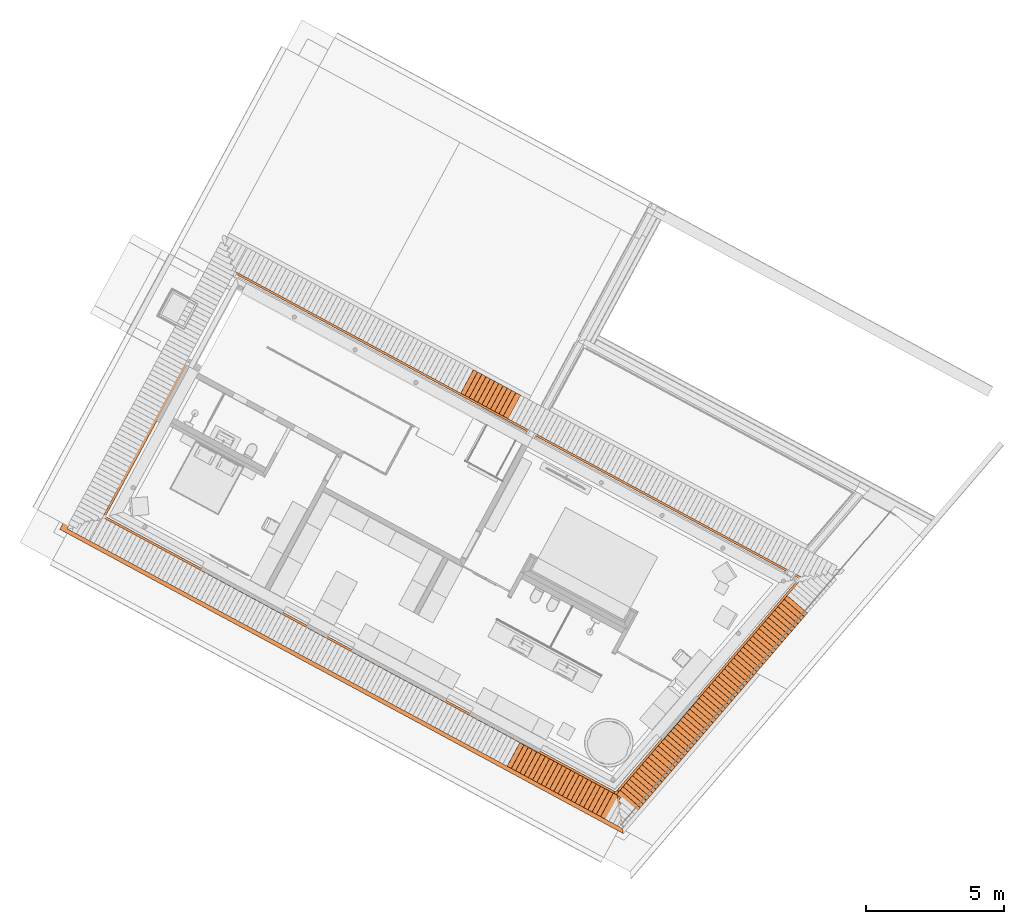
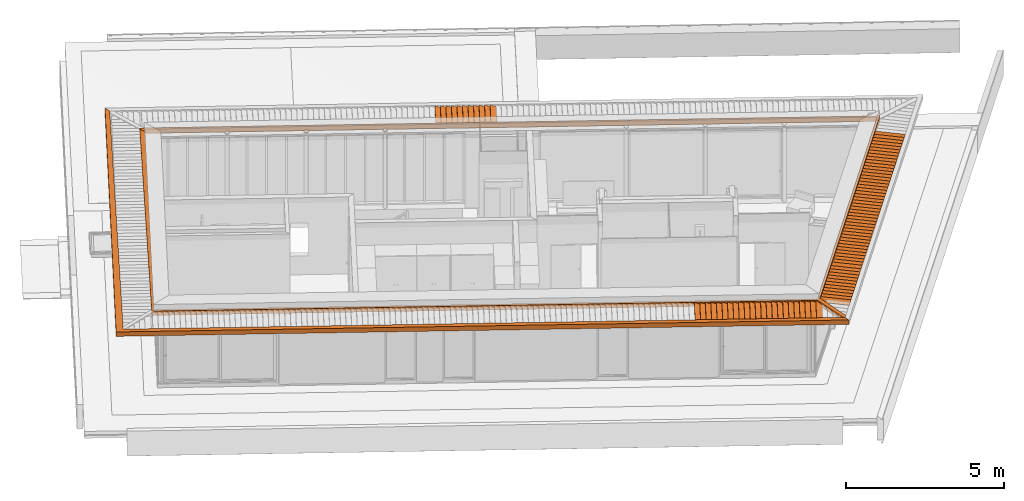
# One storey, part 38 of 41: 92 proxies.
"""IFC2X3 building model written with IfcOpenShell, lengths in metres."""

from ifc_helpers import new_model, entity, si_unit, converted_unit, derived_unit, money_unit, direction, frame, origin_with_axes, place, context, subcontext, project, spatial, polyline, outline, extrude, faceted_brep, source, transform, mapped, material, material_list, type_object, element, save


model = new_model("IFC2X3")

# Units and contexts
model_context = context("Model", 3, precision=1e-05, world=origin_with_axes(), true_north=direction((0.0, 1.0)))
body_context = subcontext(model_context, "Body", "Model", "MODEL_VIEW")
ifc_project = project(units=[si_unit("LENGTHUNIT", "METRE"), si_unit("AREAUNIT", "SQUARE_METRE"), si_unit("VOLUMEUNIT", "CUBIC_METRE"), converted_unit("PLANEANGLEUNIT", "DEGREE", entity("IfcPlaneAngleMeasure", 0.0174532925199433), si_unit("PLANEANGLEUNIT", "RADIAN"), dimensions=[0, 0, 0, 0, 0, 0, 0]), money_unit("EUR"), converted_unit("TIMEUNIT", "Year", entity("IfcTimeMeasure", 31556926.0), si_unit("TIMEUNIT", "SECOND"), dimensions=[0, 0, 1, 0, 0, 0, 0]), si_unit("MASSUNIT", "GRAM", prefix="KILO"), si_unit("THERMODYNAMICTEMPERATUREUNIT", "DEGREE_CELSIUS"), si_unit("LUMINOUSINTENSITYUNIT", "LUMEN"), si_unit("ENERGYUNIT", "JOULE", prefix="MEGA"), derived_unit("THERMALCONDUCTANCEUNIT", [(si_unit("POWERUNIT", "WATT"), 1), (si_unit("LENGTHUNIT", "METRE"), -1), (si_unit("THERMODYNAMICTEMPERATUREUNIT", "KELVIN"), -1)]), derived_unit("SPECIFICHEATCAPACITYUNIT", [(si_unit("ENERGYUNIT", "JOULE"), 1), (si_unit("MASSUNIT", "GRAM", prefix="KILO"), -1), (si_unit("THERMODYNAMICTEMPERATUREUNIT", "KELVIN"), -1)]), derived_unit("MASSDENSITYUNIT", [(si_unit("MASSUNIT", "GRAM", prefix="KILO"), 1), (si_unit("VOLUMEUNIT", "CUBIC_METRE"), -1)])], contexts=[model_context])

# Site, building, storey
site_placement = place(None, frame((-3.949935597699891, 1.740105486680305, 0.0), z_axis=(0.0, 0.0, 1.0), x_axis=(0.8799804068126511, -0.475009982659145, 0.0)))
site = spatial("IfcSite", under=ifc_project, at=site_placement, Name="Gelände", CompositionType="ELEMENT")
building_placement = place(site_placement, origin_with_axes())
building = spatial("IfcBuilding", under=site, at=building_placement, Name="Gebäude", CompositionType="ELEMENT")
storey_placement = place(building_placement, frame((0.0, 0.0, 4.55), z_axis=(0.0, 0.0, 1.0), x_axis=(1.0, 0.0, 0.0)))
storey = spatial("IfcBuildingStorey", under=building, at=storey_placement, Name="Staffelgeschoss", CompositionType="ELEMENT", Elevation=4.55)

# Proxies
ifc_material_1 = material(Name="ALLGEMEIN - BAUTEIL")
building_element_proxy_type_1 = type_object("IfcBuildingElementProxyType", Name="ALLGEMEIN - BAUTEIL", PredefinedType="USERDEFINED")
shared_shape = source(origin_with_axes(), body_context, "Body", "Brep", [
    faceted_brep([(0.2148913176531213, -0.9669323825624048, 0.0), (0.0, -0.9669000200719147, 0.0), (0.0, 0.0, 0.0), (0.2150369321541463, -3.238441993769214e-05, 0.0), (0.2148913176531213, -0.9669323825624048, 0.009999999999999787), (0.0, -0.9669000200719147, 0.009999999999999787), (0.0, 0.0, 0.009999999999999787), (0.2150369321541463, -3.238441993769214e-05, 0.009999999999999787)], [[[0, 1, 2, 3]], [[1, 0, 4, 5]], [[5, 6, 2, 1]], [[6, 7, 3, 2]], [[4, 0, 3, 7]], [[6, 5, 4, 7]]]),
])
for number, where, z_axis, x_axis, name in (
    (1, (29.00400020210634, 9.499252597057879, 2.903466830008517), (-0.07623058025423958, -0.3492978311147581, 0.933905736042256), (-0.1991281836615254, -0.9124296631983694, -0.3575193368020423), "Morph-037"),
    (2, (29.04130504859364, 9.670187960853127, 2.903466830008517), (-0.07623058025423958, -0.3492978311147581, 0.933905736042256), (-0.1991281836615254, -0.9124296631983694, -0.3575193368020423), "Morph-037"),
    (3, (29.07860989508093, 9.841123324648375, 2.903466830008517), (-0.07623058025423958, -0.3492978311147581, 0.933905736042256), (-0.1991281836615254, -0.9124296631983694, -0.3575193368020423), "Morph-037"),
    (4, (28.92939050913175, 9.157381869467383, 2.903466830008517), (-0.07623058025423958, -0.3492978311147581, 0.933905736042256), (-0.1991281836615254, -0.9124296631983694, -0.3575193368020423), "Morph-037"),
    (5, (27.17198807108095, 1.104900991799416, 2.903466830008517), (-0.07623058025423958, -0.3492978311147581, 0.933905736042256), (-0.1991281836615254, -0.9124296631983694, -0.3575193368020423), "Morph-037"),
    (6, (27.20784988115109, 1.269224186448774, 2.903466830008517), (-0.07623058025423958, -0.3492978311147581, 0.933905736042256), (-0.1991281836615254, -0.9124296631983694, -0.3575193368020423), "Morph-037"),
    (7, (27.54359349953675, 2.807642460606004, 2.903466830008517), (-0.07623058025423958, -0.3492978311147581, 0.933905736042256), (-0.1991281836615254, -0.9124296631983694, -0.3575193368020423), "Morph-037"),
    (8, (27.24515472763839, 1.440159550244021, 2.903466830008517), (-0.07623058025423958, -0.3492978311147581, 0.933905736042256), (-0.1991281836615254, -0.9124296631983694, -0.3575193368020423), "Morph-037"),
    (9, (27.28245957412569, 1.61109491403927, 2.903466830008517), (-0.07623058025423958, -0.3492978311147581, 0.933905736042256), (-0.1991281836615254, -0.9124296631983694, -0.3575193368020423), "Morph-037"),
    (10, (27.31976442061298, 1.782030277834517, 2.903466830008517), (-0.07623058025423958, -0.3492978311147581, 0.933905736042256), (-0.1991281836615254, -0.9124296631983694, -0.3575193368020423), "Morph-037"),
    (11, (27.35706926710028, 1.952965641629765, 2.903466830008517), (-0.07623058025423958, -0.3492978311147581, 0.933905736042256), (-0.1991281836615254, -0.9124296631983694, -0.3575193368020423), "Morph-037"),
    (12, (27.43167896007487, 2.29483636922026, 2.903466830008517), (-0.07623058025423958, -0.3492978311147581, 0.933905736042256), (-0.1991281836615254, -0.9124296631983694, -0.3575193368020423), "Morph-037"),
    (13, (27.46898380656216, 2.465771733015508, 2.903466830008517), (-0.07623058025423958, -0.3492978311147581, 0.933905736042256), (-0.1991281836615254, -0.9124296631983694, -0.3575193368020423), "Morph-037"),
    (14, (27.50628865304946, 2.636707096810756, 2.903466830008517), (-0.07623058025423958, -0.3492978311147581, 0.933905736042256), (-0.1991281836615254, -0.9124296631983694, -0.3575193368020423), "Morph-037"),
    (15, (27.58641603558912, 3.00370877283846, 2.903466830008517), (-0.07623058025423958, -0.3492978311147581, 0.933905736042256), (-0.1991281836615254, -0.9124296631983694, -0.3575193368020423), "Morph-037"),
    (16, (27.66102572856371, 3.345579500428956, 2.903466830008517), (-0.07623058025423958, -0.3492978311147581, 0.933905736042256), (-0.1991281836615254, -0.9124296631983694, -0.3575193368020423), "Morph-037"),
    (17, (27.39437411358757, 2.123901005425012, 2.903466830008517), (-0.07623058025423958, -0.3492978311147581, 0.933905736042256), (-0.1991281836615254, -0.9124296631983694, -0.3575193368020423), "Morph-037"),
    (18, (27.62372088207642, 3.174644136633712, 2.903466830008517), (-0.07623058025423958, -0.3492978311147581, 0.933905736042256), (-0.1991281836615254, -0.9124296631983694, -0.3575193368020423), "Morph-037"),
    (19, (27.69833057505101, 3.516514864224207, 2.903466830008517), (-0.07623058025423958, -0.3492978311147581, 0.933905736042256), (-0.1991281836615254, -0.9124296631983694, -0.3575193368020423), "Morph-037"),
    (20, (27.7356354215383, 3.687450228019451, 2.903466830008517), (-0.07623058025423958, -0.3492978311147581, 0.933905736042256), (-0.1991281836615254, -0.9124296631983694, -0.3575193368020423), "Morph-037"),
    (21, (27.7729402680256, 3.858385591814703, 2.903466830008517), (-0.07623058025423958, -0.3492978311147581, 0.933905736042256), (-0.1991281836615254, -0.9124296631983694, -0.3575193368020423), "Morph-037"),
    (22, (27.81024511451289, 4.029320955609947, 2.903466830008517), (-0.07623058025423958, -0.3492978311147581, 0.933905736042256), (-0.1991281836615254, -0.9124296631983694, -0.3575193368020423), "Morph-037"),
    (23, (27.84754996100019, 4.200256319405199, 2.903466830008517), (-0.07623058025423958, -0.3492978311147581, 0.933905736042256), (-0.1991281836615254, -0.9124296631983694, -0.3575193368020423), "Morph-037"),
    (24, (27.88485480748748, 4.371191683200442, 2.903466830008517), (-0.07623058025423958, -0.3492978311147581, 0.933905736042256), (-0.1991281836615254, -0.9124296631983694, -0.3575193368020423), "Morph-037"),
    (25, (27.95946450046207, 4.713062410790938, 2.903466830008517), (-0.07623058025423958, -0.3492978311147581, 0.933905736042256), (-0.1991281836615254, -0.9124296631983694, -0.3575193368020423), "Morph-037"),
    (26, (27.92215965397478, 4.542127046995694, 2.903466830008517), (-0.07623058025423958, -0.3492978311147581, 0.933905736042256), (-0.1991281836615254, -0.9124296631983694, -0.3575193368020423), "Morph-037"),
    (27, (27.99676934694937, 4.88399777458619, 2.903466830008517), (-0.07623058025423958, -0.3492978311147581, 0.933905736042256), (-0.1991281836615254, -0.9124296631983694, -0.3575193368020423), "Morph-037"),
    (28, (28.03407419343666, 5.054933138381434, 2.903466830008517), (-0.07623058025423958, -0.3492978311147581, 0.933905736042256), (-0.1991281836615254, -0.9124296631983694, -0.3575193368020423), "Morph-037"),
    (29, (28.10868388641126, 5.396803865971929, 2.903466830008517), (-0.07623058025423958, -0.3492978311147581, 0.933905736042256), (-0.1991281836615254, -0.9124296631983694, -0.3575193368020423), "Morph-037"),
    (30, (28.14598873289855, 5.567739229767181, 2.903466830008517), (-0.07623058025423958, -0.3492978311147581, 0.933905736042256), (-0.1991281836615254, -0.9124296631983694, -0.3575193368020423), "Morph-037"),
    (31, (28.07137903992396, 5.225868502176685, 2.903466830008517), (-0.07623058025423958, -0.3492978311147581, 0.933905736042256), (-0.1991281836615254, -0.9124296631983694, -0.3575193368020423), "Morph-037"),
    (32, (28.22059842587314, 5.909609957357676, 2.903466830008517), (-0.07623058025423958, -0.3492978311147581, 0.933905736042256), (-0.1991281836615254, -0.9124296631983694, -0.3575193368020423), "Morph-037"),
    (33, (28.25790327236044, 6.080545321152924, 2.903466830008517), (-0.07623058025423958, -0.3492978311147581, 0.933905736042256), (-0.1991281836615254, -0.9124296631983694, -0.3575193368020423), "Morph-037"),
    (34, (28.18329357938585, 5.738674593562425, 2.903466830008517), (-0.07623058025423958, -0.3492978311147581, 0.933905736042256), (-0.1991281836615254, -0.9124296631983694, -0.3575193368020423), "Morph-037"),
    (35, (28.29520811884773, 6.251480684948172, 2.903466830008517), (-0.07623058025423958, -0.3492978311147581, 0.933905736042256), (-0.1991281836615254, -0.9124296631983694, -0.3575193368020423), "Morph-037"),
    (36, (28.33251296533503, 6.422416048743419, 2.903466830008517), (-0.07623058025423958, -0.3492978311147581, 0.933905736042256), (-0.1991281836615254, -0.9124296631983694, -0.3575193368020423), "Morph-037"),
    (37, (28.36981781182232, 6.593351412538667, 2.903466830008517), (-0.07623058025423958, -0.3492978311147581, 0.933905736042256), (-0.1991281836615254, -0.9124296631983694, -0.3575193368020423), "Morph-037"),
    (38, (28.40712265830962, 6.764286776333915, 2.903466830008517), (-0.07623058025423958, -0.3492978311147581, 0.933905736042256), (-0.1991281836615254, -0.9124296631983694, -0.3575193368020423), "Morph-037"),
    (39, (28.48173235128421, 7.10615750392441, 2.903466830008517), (-0.07623058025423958, -0.3492978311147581, 0.933905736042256), (-0.1991281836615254, -0.9124296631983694, -0.3575193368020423), "Morph-037"),
    (40, (28.44442750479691, 6.935222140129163, 2.903466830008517), (-0.07623058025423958, -0.3492978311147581, 0.933905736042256), (-0.1991281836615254, -0.9124296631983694, -0.3575193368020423), "Morph-037"),
    (41, (28.5190371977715, 7.277092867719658, 2.903466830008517), (-0.07623058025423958, -0.3492978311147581, 0.933905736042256), (-0.1991281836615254, -0.9124296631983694, -0.3575193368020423), "Morph-037"),
    (42, (28.59364689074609, 7.618963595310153, 2.903466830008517), (-0.07623058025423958, -0.3492978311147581, 0.933905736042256), (-0.1991281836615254, -0.9124296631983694, -0.3575193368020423), "Morph-037"),
    (43, (28.66825658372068, 7.96083432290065, 2.903466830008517), (-0.07623058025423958, -0.3492978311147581, 0.933905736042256), (-0.1991281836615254, -0.9124296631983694, -0.3575193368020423), "Morph-037"),
    (44, (28.63095173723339, 7.789898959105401, 2.903466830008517), (-0.07623058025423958, -0.3492978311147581, 0.933905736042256), (-0.1991281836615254, -0.9124296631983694, -0.3575193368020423), "Morph-037"),
    (45, (28.74286627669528, 8.302705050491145, 2.903466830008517), (-0.07623058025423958, -0.3492978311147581, 0.933905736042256), (-0.1991281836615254, -0.9124296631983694, -0.3575193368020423), "Morph-037"),
    (46, (28.70556143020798, 8.131769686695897, 2.903466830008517), (-0.07623058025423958, -0.3492978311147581, 0.933905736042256), (-0.1991281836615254, -0.9124296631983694, -0.3575193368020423), "Morph-037"),
    (47, (28.78017112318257, 8.473640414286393, 2.903466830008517), (-0.07623058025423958, -0.3492978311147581, 0.933905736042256), (-0.1991281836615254, -0.9124296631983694, -0.3575193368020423), "Morph-037"),
    (48, (28.81747596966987, 8.644575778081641, 2.903466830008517), (-0.07623058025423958, -0.3492978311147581, 0.933905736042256), (-0.1991281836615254, -0.9124296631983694, -0.3575193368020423), "Morph-037"),
    (49, (28.85478081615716, 8.815511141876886, 2.903466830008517), (-0.07623058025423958, -0.3492978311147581, 0.933905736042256), (-0.1991281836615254, -0.9124296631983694, -0.3575193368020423), "Morph-037"),
    (50, (28.5563420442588, 7.448028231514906, 2.903466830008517), (-0.07623058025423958, -0.3492978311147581, 0.933905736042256), (-0.1991281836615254, -0.9124296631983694, -0.3575193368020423), "Morph-037"),
    (51, (28.96669535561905, 9.32831723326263, 2.903466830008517), (-0.07623058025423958, -0.3492978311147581, 0.933905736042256), (-0.1991281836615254, -0.9124296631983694, -0.3575193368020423), "Morph-037"),
    (52, (28.89208566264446, 8.986446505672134, 2.903466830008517), (-0.07623058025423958, -0.3492978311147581, 0.933905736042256), (-0.1991281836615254, -0.9124296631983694, -0.3575193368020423), "Morph-037"),
    (53, (22.21068781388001, 1.096892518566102, 2.903466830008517), (0.3575193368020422, 0.0, 0.933905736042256), (0.933905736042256, 0.0, -0.3575193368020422), "Morph-037"),
    (54, (22.56060523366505, 1.096892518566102, 2.903466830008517), (0.3575193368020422, 0.0, 0.933905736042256), (0.933905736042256, 0.0, -0.3575193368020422), "Morph-037"),
    (55, (22.38564652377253, 1.096892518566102, 2.903466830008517), (0.3575193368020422, 0.0, 0.933905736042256), (0.933905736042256, 0.0, -0.3575193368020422), "Morph-037"),
    (56, (22.73556394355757, 1.096892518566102, 2.903466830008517), (0.3575193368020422, 0.0, 0.933905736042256), (0.933905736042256, 0.0, -0.3575193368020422), "Morph-037"),
    (57, (22.91052265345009, 1.096892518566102, 2.903466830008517), (0.3575193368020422, 0.0, 0.933905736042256), (0.933905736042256, 0.0, -0.3575193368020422), "Morph-037"),
    (58, (23.08548136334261, 1.096892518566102, 2.903466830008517), (0.3575193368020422, 0.0, 0.933905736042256), (0.933905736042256, 0.0, -0.3575193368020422), "Morph-037"),
    (59, (23.26044007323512, 1.096892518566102, 2.903466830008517), (0.3575193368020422, 0.0, 0.933905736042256), (0.933905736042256, 0.0, -0.3575193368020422), "Morph-037"),
    (60, (23.61035749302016, 1.096892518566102, 2.903466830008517), (0.3575193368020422, 0.0, 0.933905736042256), (0.933905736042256, 0.0, -0.3575193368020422), "Morph-037"),
    (61, (23.43539878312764, 1.096892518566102, 2.903466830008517), (0.3575193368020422, 0.0, 0.933905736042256), (0.933905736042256, 0.0, -0.3575193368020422), "Morph-037"),
    (62, (23.78531620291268, 1.096892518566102, 2.903466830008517), (0.3575193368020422, 0.0, 0.933905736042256), (0.933905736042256, 0.0, -0.3575193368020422), "Morph-037"),
    (63, (24.13523362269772, 1.096892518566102, 2.903466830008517), (0.3575193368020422, 0.0, 0.933905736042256), (0.933905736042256, 0.0, -0.3575193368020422), "Morph-037"),
    (64, (23.9602749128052, 1.096892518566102, 2.903466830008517), (0.3575193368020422, 0.0, 0.933905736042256), (0.933905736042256, 0.0, -0.3575193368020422), "Morph-037"),
    (65, (24.31019233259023, 1.096892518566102, 2.903466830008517), (0.3575193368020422, 0.0, 0.933905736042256), (0.933905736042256, 0.0, -0.3575193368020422), "Morph-037"),
    (66, (24.48515104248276, 1.096892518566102, 2.903466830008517), (0.3575193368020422, 0.0, 0.933905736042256), (0.933905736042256, 0.0, -0.3575193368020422), "Morph-037"),
    (67, (24.66010975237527, 1.096892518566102, 2.903466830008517), (0.3575193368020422, 0.0, 0.933905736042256), (0.933905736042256, 0.0, -0.3575193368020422), "Morph-037"),
    (68, (24.83506846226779, 1.096892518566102, 2.903466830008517), (0.3575193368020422, 0.0, 0.933905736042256), (0.933905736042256, 0.0, -0.3575193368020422), "Morph-037"),
    (69, (25.01002717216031, 1.096892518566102, 2.903466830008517), (0.3575193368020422, 0.0, 0.933905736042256), (0.933905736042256, 0.0, -0.3575193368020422), "Morph-037"),
    (70, (25.18498588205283, 1.096892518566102, 2.903466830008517), (0.3575193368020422, 0.0, 0.933905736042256), (0.933905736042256, 0.0, -0.3575193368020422), "Morph-037"),
    (71, (25.35994459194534, 1.096892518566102, 2.903466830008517), (0.3575193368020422, 0.0, 0.933905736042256), (0.933905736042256, 0.0, -0.3575193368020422), "Morph-037"),
    (72, (25.70986201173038, 1.096892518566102, 2.903466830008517), (0.3575193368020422, 0.0, 0.933905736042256), (0.933905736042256, 0.0, -0.3575193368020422), "Morph-037"),
    (73, (25.53490330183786, 1.096892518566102, 2.903466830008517), (0.3575193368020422, 0.0, 0.933905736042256), (0.933905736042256, 0.0, -0.3575193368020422), "Morph-037"),
    (74, (25.8848207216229, 1.096892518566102, 2.903466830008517), (0.3575193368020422, 0.0, 0.933905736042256), (0.933905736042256, 0.0, -0.3575193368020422), "Morph-037"),
    (75, (26.05977943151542, 1.096892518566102, 2.903466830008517), (0.3575193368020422, 0.0, 0.933905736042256), (0.933905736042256, 0.0, -0.3575193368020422), "Morph-037"),
    (76, (14.31360490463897, 12.18825268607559, 2.903466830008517), (0.3575193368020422, 0.0, 0.933905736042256), (0.933905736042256, 0.0, -0.3575193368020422), "Morph-037"),
    (77, (14.48856361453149, 12.18825268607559, 2.903466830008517), (0.3575193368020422, 0.0, 0.933905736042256), (0.933905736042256, 0.0, -0.3575193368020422), "Morph-037"),
    (78, (14.66352232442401, 12.18825268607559, 2.903466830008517), (0.3575193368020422, 0.0, 0.933905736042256), (0.933905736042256, 0.0, -0.3575193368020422), "Morph-037"),
    (79, (14.83848103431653, 12.18825268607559, 2.903466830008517), (0.3575193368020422, 0.0, 0.933905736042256), (0.933905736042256, 0.0, -0.3575193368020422), "Morph-037"),
    (80, (15.01343974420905, 12.18825268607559, 2.903466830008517), (0.3575193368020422, 0.0, 0.933905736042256), (0.933905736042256, 0.0, -0.3575193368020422), "Morph-037"),
    (81, (15.18839845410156, 12.18825268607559, 2.903466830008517), (0.3575193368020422, 0.0, 0.933905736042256), (0.933905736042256, 0.0, -0.3575193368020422), "Morph-037"),
    (82, (15.71327458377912, 12.18825268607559, 2.903466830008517), (0.3575193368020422, 0.0, 0.933905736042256), (0.933905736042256, 0.0, -0.3575193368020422), "Morph-037"),
    (83, (15.36335716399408, 12.18825268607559, 2.903466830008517), (0.3575193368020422, 0.0, 0.933905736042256), (0.933905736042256, 0.0, -0.3575193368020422), "Morph-037"),
    (84, (15.5383158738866, 12.18825268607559, 2.903466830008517), (0.3575193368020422, 0.0, 0.933905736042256), (0.933905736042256, 0.0, -0.3575193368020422), "Morph-037"),
    (85, (15.88823329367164, 12.18825268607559, 2.903466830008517), (0.3575193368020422, 0.0, 0.933905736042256), (0.933905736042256, 0.0, -0.3575193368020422), "Morph-037"),
    (86, (16.06319200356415, 12.18825268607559, 2.903466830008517), (0.3575193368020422, 0.0, 0.933905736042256), (0.933905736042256, 0.0, -0.3575193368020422), "Morph-037"),
    (87, (29.15321958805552, 10.18299405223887, 2.903466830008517), (-0.07623058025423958, -0.3492978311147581, 0.933905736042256), (-0.1991281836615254, -0.9124296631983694, -0.3575193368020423), "Morph-037"),
    (88, (29.11591474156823, 10.01205868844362, 2.903466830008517), (-0.07623058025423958, -0.3492978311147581, 0.933905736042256), (-0.1991281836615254, -0.9124296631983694, -0.3575193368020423), "Morph-037"),
):
    element("IfcBuildingElementProxy", number, at=place(storey_placement, frame(where, z_axis=z_axis, x_axis=x_axis)), inside=storey, type_object=building_element_proxy_type_1, material=ifc_material_1, Name=name, ObjectType="SHADING_DEVICE", context=body_context, shape_type="MappedRepresentation", body=[
        mapped(shared_shape, transform((0.0, 0.0, 0.0))),
    ])
ifc_material_2 = material(Name="Dämmung, hart EPS")
ifc_material_3 = material(Name="Sperrschicht, Folie")
ifc_material_4 = material(Name="Estrich")
ifc_material_5 = material(Name="Kleber")
ifc_material_6 = material(Name="Beton, Leichtbeton")
ifc_material_list = material_list([ifc_material_2, ifc_material_3, ifc_material_4, ifc_material_5, ifc_material_6])
building_element_proxy_type_2 = type_object("IfcBuildingElementProxyType", Name="BO | Dämmung 8+Folie+Estrich 7+Fliese 0,5 | 16cm 170", PredefinedType="NOTDEFINED")
proxy_1_placement = place(storey_placement, frame((3.876178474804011, 12.34280286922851, 2.75), z_axis=(0.0, 0.0, 1.0), x_axis=(1.0, 0.0, 0.0)))
element("IfcBuildingElementProxy", 89, at=proxy_1_placement, inside=storey, type_object=building_element_proxy_type_2, material=ifc_material_list, Name="Decke028", context=body_context, shape_type="SweptSolid", body=[
    extrude(outline(polyline([(0.0, 0.0), (0.0, -12.36161132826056), (23.20367200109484, -12.36162825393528), (23.08735351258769, -12.21279299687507), (0.2299842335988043, -12.21277632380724), (0.1476966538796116, -0.1617451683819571), (0.0, 0.0)])), origin_with_axes(), (0.0, 0.0, 1.0), 0.08),
    extrude(outline(polyline([(0.0, 0.0), (0.0, -12.36161132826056), (23.20367200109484, -12.36162825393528), (23.08735351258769, -12.21279299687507), (0.2299842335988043, -12.21277632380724), (0.1476966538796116, -0.1617451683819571), (0.0, 0.0)])), frame((0.0, 0.0, 0.08), z_axis=(0.0, 0.0, 1.0), x_axis=(1.0, 0.0, 0.0)), (0.0, 0.0, 1.0), 0.0),
    extrude(outline(polyline([(0.0, 0.0), (0.0, -12.36161132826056), (23.20367200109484, -12.36162825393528), (23.08735351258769, -12.21279299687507), (0.2299842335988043, -12.21277632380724), (0.1476966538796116, -0.1617451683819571), (0.0, 0.0)])), frame((0.0, 0.0, 0.08), z_axis=(0.0, 0.0, 1.0), x_axis=(1.0, 0.0, 0.0)), (0.0, 0.0, 1.0), 0.07),
    extrude(outline(polyline([(0.0, 0.0), (0.0, -12.36161132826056), (23.20367200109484, -12.36162825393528), (23.08735351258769, -12.21279299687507), (0.2299842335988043, -12.21277632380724), (0.1476966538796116, -0.1617451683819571), (0.0, 0.0)])), frame((0.0, 0.0, 0.15), z_axis=(0.0, 0.0, 1.0), x_axis=(1.0, 0.0, 0.0)), (0.0, 0.0, 1.0), 0.01),
    extrude(outline(polyline([(0.0, 0.0), (0.0, -12.36161132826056), (23.20367200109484, -12.36162825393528), (23.08735351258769, -12.21279299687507), (0.2299842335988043, -12.21277632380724), (0.1476966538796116, -0.1617451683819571), (0.0, 0.0)])), frame((0.0, 0.0, 0.16), z_axis=(0.0, 0.0, 1.0), x_axis=(1.0, 0.0, 0.0)), (0.0, 0.0, 1.0), 0.01),
])
proxy_2_placement = place(storey_placement, frame((26.04598771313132, 1.179999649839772, 2.75), z_axis=(0.0, 0.0, 1.0), x_axis=(1.0, 0.0, 0.0)))
element("IfcBuildingElementProxy", 90, at=proxy_2_placement, inside=storey, type_object=building_element_proxy_type_2, material=ifc_material_list, Name="Decke041", context=body_context, shape_type="SweptSolid", body=[
    extrude(outline(polyline([(0.0, 0.0), (0.852193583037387, -1.049989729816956), (0.9175442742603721, -1.049989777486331), (0.9407569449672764, -0.9437081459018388), (0.0924605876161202, 0.1146263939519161), (0.06742521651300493, 0.0), (0.0, 0.0)])), origin_with_axes(), (0.0, 0.0, 1.0), 0.08),
    extrude(outline(polyline([(0.0, 0.0), (0.852193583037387, -1.049989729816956), (0.9175442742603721, -1.049989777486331), (0.9407569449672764, -0.9437081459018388), (0.0924605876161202, 0.1146263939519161), (0.06742521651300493, 0.0), (0.0, 0.0)])), frame((0.0, 0.0, 0.08), z_axis=(0.0, 0.0, 1.0), x_axis=(1.0, 0.0, 0.0)), (0.0, 0.0, 1.0), 0.0),
    extrude(outline(polyline([(0.0, 0.0), (0.852193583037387, -1.049989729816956), (0.9175442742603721, -1.049989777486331), (0.9407569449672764, -0.9437081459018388), (0.0924605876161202, 0.1146263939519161), (0.06742521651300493, 0.0), (0.0, 0.0)])), frame((0.0, 0.0, 0.08), z_axis=(0.0, 0.0, 1.0), x_axis=(1.0, 0.0, 0.0)), (0.0, 0.0, 1.0), 0.07),
    extrude(outline(polyline([(0.0, 0.0), (0.852193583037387, -1.049989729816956), (0.9175442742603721, -1.049989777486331), (0.9407569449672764, -0.9437081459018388), (0.0924605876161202, 0.1146263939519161), (0.06742521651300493, 0.0), (0.0, 0.0)])), frame((0.0, 0.0, 0.15), z_axis=(0.0, 0.0, 1.0), x_axis=(1.0, 0.0, 0.0)), (0.0, 0.0, 1.0), 0.01),
    extrude(outline(polyline([(0.0, 0.0), (0.852193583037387, -1.049989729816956), (0.9175442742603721, -1.049989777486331), (0.9407569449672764, -0.9437081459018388), (0.0924605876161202, 0.1146263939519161), (0.06742521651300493, 0.0), (0.0, 0.0)])), frame((0.0, 0.0, 0.16), z_axis=(0.0, 0.0, 1.0), x_axis=(1.0, 0.0, 0.0)), (0.0, 0.0, 1.0), 0.01),
])
proxy_3_placement = place(storey_placement, frame((5.112481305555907, 10.99063903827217, 2.75), z_axis=(0.0, 0.0, 1.0), x_axis=(1.0, 0.0, 0.0)))
element("IfcBuildingElementProxy", 91, at=proxy_3_placement, inside=storey, type_object=building_element_proxy_type_2, material=ifc_material_list, Name="Decke057", context=body_context, shape_type="SweptSolid", body=[
    extrude(outline(polyline([(0.0, 0.0), (-0.1690514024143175, 0.1690514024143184), (-0.07769496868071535, -9.893713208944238), (21.00093162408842, -9.89371415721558), (21.00093162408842, -9.810639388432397), (0.0, -9.810638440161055), (0.0, 0.0)])), origin_with_axes(), (0.0, 0.0, 1.0), 0.08),
    extrude(outline(polyline([(0.0, 0.0), (-0.1690514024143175, 0.1690514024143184), (-0.07769496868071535, -9.893713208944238), (21.00093162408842, -9.89371415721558), (21.00093162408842, -9.810639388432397), (0.0, -9.810638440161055), (0.0, 0.0)])), frame((0.0, 0.0, 0.08), z_axis=(0.0, 0.0, 1.0), x_axis=(1.0, 0.0, 0.0)), (0.0, 0.0, 1.0), 0.0),
    extrude(outline(polyline([(0.0, 0.0), (-0.1690514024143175, 0.1690514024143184), (-0.07769496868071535, -9.893713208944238), (21.00093162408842, -9.89371415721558), (21.00093162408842, -9.810639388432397), (0.0, -9.810638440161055), (0.0, 0.0)])), frame((0.0, 0.0, 0.08), z_axis=(0.0, 0.0, 1.0), x_axis=(1.0, 0.0, 0.0)), (0.0, 0.0, 1.0), 0.07),
    extrude(outline(polyline([(0.0, 0.0), (-0.1690514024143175, 0.1690514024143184), (-0.07769496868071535, -9.893713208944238), (21.00093162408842, -9.89371415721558), (21.00093162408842, -9.810639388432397), (0.0, -9.810638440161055), (0.0, 0.0)])), frame((0.0, 0.0, 0.15), z_axis=(0.0, 0.0, 1.0), x_axis=(1.0, 0.0, 0.0)), (0.0, 0.0, 1.0), 0.01),
    extrude(outline(polyline([(0.0, 0.0), (-0.1690514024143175, 0.1690514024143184), (-0.07769496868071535, -9.893713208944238), (21.00093162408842, -9.89371415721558), (21.00093162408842, -9.810639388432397), (0.0, -9.810638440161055), (0.0, 0.0)])), frame((0.0, 0.0, 0.16), z_axis=(0.0, 0.0, 1.0), x_axis=(1.0, 0.0, 0.0)), (0.0, 0.0, 1.0), 0.01),
])
proxy_4_placement = place(storey_placement, frame((26.11341292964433, 1.096924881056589, 2.75), z_axis=(0.0, 0.0, 1.0), x_axis=(1.0, 0.0, 0.0)))
element("IfcBuildingElementProxy", 92, at=proxy_4_placement, inside=storey, type_object=building_element_proxy_type_2, material=ifc_material_list, Name="Decke058", context=body_context, shape_type="SweptSolid", body=[
    extrude(outline(polyline([(0.0, 0.0), (0.06714008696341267, 0.0), (2.278401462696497, 10.12443220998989), (-21.16998302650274, 10.12443315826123), (-21.16998302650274, 10.0627655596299), (-21.00093162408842, 9.89371415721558), (-21.00093162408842, 10.04587667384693), (2.175959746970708, 10.04587572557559), (0.0, 0.08307476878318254), (-0.06742521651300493, 0.08307476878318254), (0.0, 0.0)])), origin_with_axes(), (0.0, 0.0, 1.0), 0.08),
    extrude(outline(polyline([(0.0, 0.0), (0.06714008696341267, 0.0), (2.278401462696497, 10.12443220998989), (-21.16998302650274, 10.12443315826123), (-21.16998302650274, 10.0627655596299), (-21.00093162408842, 9.89371415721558), (-21.00093162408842, 10.04587667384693), (2.175959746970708, 10.04587572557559), (0.0, 0.08307476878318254), (-0.06742521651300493, 0.08307476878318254), (0.0, 0.0)])), frame((0.0, 0.0, 0.08), z_axis=(0.0, 0.0, 1.0), x_axis=(1.0, 0.0, 0.0)), (0.0, 0.0, 1.0), 0.0),
    extrude(outline(polyline([(0.0, 0.0), (0.06714008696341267, 0.0), (2.278401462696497, 10.12443220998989), (-21.16998302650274, 10.12443315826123), (-21.16998302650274, 10.0627655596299), (-21.00093162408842, 9.89371415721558), (-21.00093162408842, 10.04587667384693), (2.175959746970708, 10.04587572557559), (0.0, 0.08307476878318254), (-0.06742521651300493, 0.08307476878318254), (0.0, 0.0)])), frame((0.0, 0.0, 0.08), z_axis=(0.0, 0.0, 1.0), x_axis=(1.0, 0.0, 0.0)), (0.0, 0.0, 1.0), 0.07),
    extrude(outline(polyline([(0.0, 0.0), (0.06714008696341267, 0.0), (2.278401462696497, 10.12443220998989), (-21.16998302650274, 10.12443315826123), (-21.16998302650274, 10.0627655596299), (-21.00093162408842, 9.89371415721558), (-21.00093162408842, 10.04587667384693), (2.175959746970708, 10.04587572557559), (0.0, 0.08307476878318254), (-0.06742521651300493, 0.08307476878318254), (0.0, 0.0)])), frame((0.0, 0.0, 0.15), z_axis=(0.0, 0.0, 1.0), x_axis=(1.0, 0.0, 0.0)), (0.0, 0.0, 1.0), 0.01),
    extrude(outline(polyline([(0.0, 0.0), (0.06714008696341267, 0.0), (2.278401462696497, 10.12443220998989), (-21.16998302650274, 10.12443315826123), (-21.16998302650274, 10.0627655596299), (-21.00093162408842, 9.89371415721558), (-21.00093162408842, 10.04587667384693), (2.175959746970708, 10.04587572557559), (0.0, 0.08307476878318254), (-0.06742521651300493, 0.08307476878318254), (0.0, 0.0)])), frame((0.0, 0.0, 0.16), z_axis=(0.0, 0.0, 1.0), x_axis=(1.0, 0.0, 0.0)), (0.0, 0.0, 1.0), 0.01),
])

save(model, "model.ifc")
